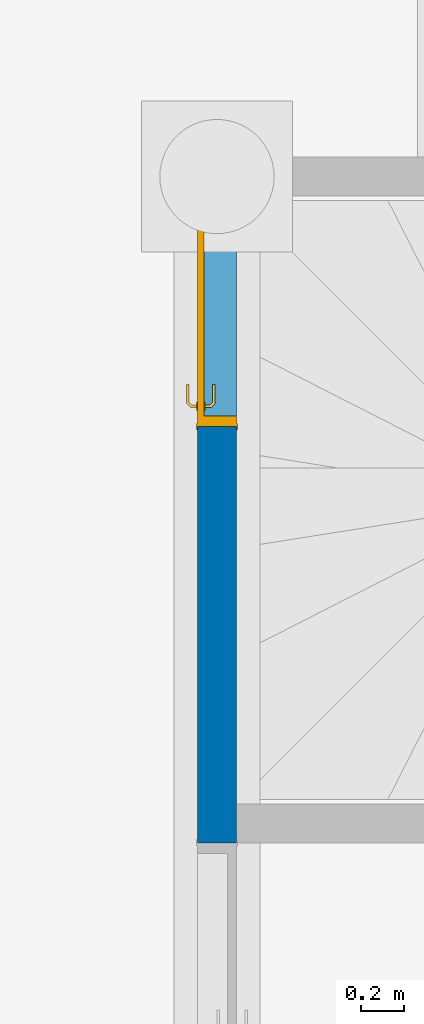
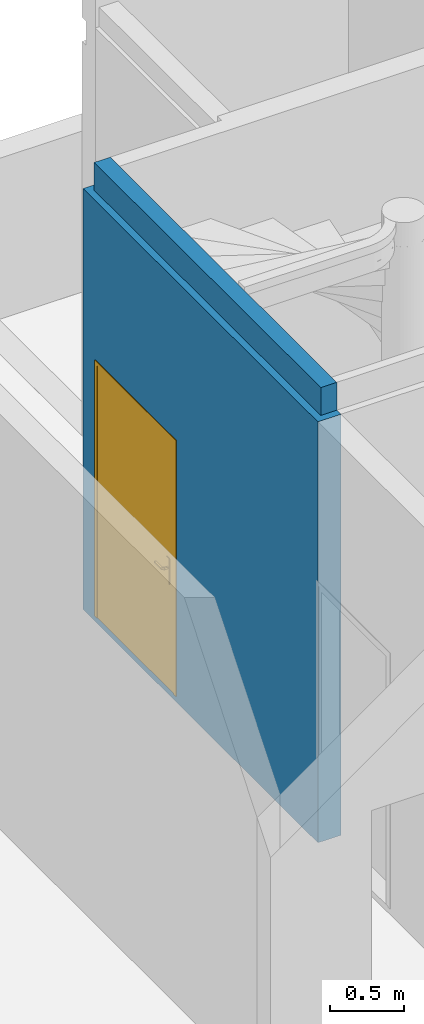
# One storey, part 22 of 29: 1 door, 1 wall, 1 opening.
"""IFC2X3 building model written with IfcOpenShell, lengths in centimetres."""

from ifc_helpers import new_model, entity, si_unit, converted_unit, derived_unit, direction, frame, frame_2d, origin, place, context, subcontext, project, spatial, rectangle, extrude, faceted_brep, source, transform, mapped, material, material_list, layer, layer_set, type_object, type_shapes, element, fill, save


model = new_model("IFC2X3")

# Units and contexts
model_context = context("Model", 3, precision=0.001, world=origin(), true_north=direction((6.12303176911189e-17, 1.0)))
body_context = subcontext(model_context, "Body", "Model", "MODEL_VIEW")
ifc_project = project(units=[si_unit("LENGTHUNIT", "METRE", prefix="CENTI"), si_unit("AREAUNIT", "SQUARE_METRE"), si_unit("VOLUMEUNIT", "CUBIC_METRE"), converted_unit("PLANEANGLEUNIT", "DEGREE", entity("IfcRatioMeasure", 0.0174532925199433), si_unit("PLANEANGLEUNIT", "RADIAN"), dimensions=[0, 0, 0, 0, 0, 0, 0]), si_unit("MASSUNIT", "GRAM", prefix="KILO"), derived_unit("MASSDENSITYUNIT", [(si_unit("MASSUNIT", "GRAM", prefix="KILO"), 1), (si_unit("LENGTHUNIT", "METRE"), -3)]), si_unit("TIMEUNIT", "SECOND"), si_unit("FREQUENCYUNIT", "HERTZ"), si_unit("THERMODYNAMICTEMPERATUREUNIT", "DEGREE_CELSIUS"), derived_unit("THERMALTRANSMITTANCEUNIT", [(si_unit("MASSUNIT", "GRAM", prefix="KILO"), 1), (si_unit("THERMODYNAMICTEMPERATUREUNIT", "KELVIN"), -1), (si_unit("TIMEUNIT", "SECOND"), -3)]), derived_unit("VOLUMETRICFLOWRATEUNIT", [(si_unit("LENGTHUNIT", "METRE"), 3), (si_unit("TIMEUNIT", "SECOND"), -1)]), si_unit("ELECTRICCURRENTUNIT", "AMPERE"), si_unit("ELECTRICVOLTAGEUNIT", "VOLT"), si_unit("POWERUNIT", "WATT"), si_unit("FORCEUNIT", "NEWTON"), si_unit("ILLUMINANCEUNIT", "LUX"), si_unit("LUMINOUSFLUXUNIT", "LUMEN"), si_unit("LUMINOUSINTENSITYUNIT", "CANDELA"), derived_unit("USERDEFINED", [(si_unit("MASSUNIT", "GRAM", prefix="KILO"), -1), (si_unit("LENGTHUNIT", "METRE"), -2), (si_unit("TIMEUNIT", "SECOND"), 3), (si_unit("LUMINOUSFLUXUNIT", "LUMEN"), 1)]), derived_unit("LINEARVELOCITYUNIT", [(si_unit("LENGTHUNIT", "METRE"), 1), (si_unit("TIMEUNIT", "SECOND"), -1)]), si_unit("PRESSUREUNIT", "PASCAL"), derived_unit("USERDEFINED", [(si_unit("LENGTHUNIT", "METRE"), -2), (si_unit("MASSUNIT", "GRAM", prefix="KILO"), 1), (si_unit("TIMEUNIT", "SECOND"), -2)])], contexts=[model_context])

# Site, building, storey
site_placement = place(None, origin())
site = spatial("IfcSite", under=ifc_project, at=site_placement, Name="Default", CompositionType="ELEMENT")
building_placement = place(site_placement, origin())
building = spatial("IfcBuilding", under=site, at=building_placement, Name="CAGE 03", CompositionType="ELEMENT")
storey_placement = place(building_placement, frame((0.0, 0.0, -26.0)))
storey = spatial("IfcBuildingStorey", under=building, at=storey_placement, Name="+3.74", CompositionType="ELEMENT", Elevation=-26.0000000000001)

# Wall, opening, door
ifc_material_1 = material(Name="Béton, C25/30")
ifc_layer = layer(ifc_material_1, 18.0)
ifc_layer_set = layer_set([ifc_layer], Name="Mur de base:Voile BA 18")
wall_type = type_object("IfcWallType", Name="Mur de base:Voile BA 18", PredefinedType="STANDARD", material=ifc_layer_set)
wall_placement = place(storey_placement, frame((7022.36582014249, 4632.6606660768, -5.0), z_axis=(0.0, 0.0, 1.0), x_axis=(0.0, 1.0, 0.0)))
wall = element("IfcWall", 1, at=wall_placement, inside=storey, type_object=wall_type, Name="Mur de base:Voile BA 18", ObjectType="Mur de base:Voile BA 18", context=body_context, shape_type="Brep", body=[
    faceted_brep([(0.0, -9.0, 0.0), (18.0, -9.0, 0.0), (300.0, -9.0, 0.0), (318.0, -9.0, 0.0), (318.0, -9.0, 348.0), (312.499999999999, -9.0, 348.0), (312.499999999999, -9.0, 371.0), (300.0, -9.0, 371.0), (12.5000000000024, -9.0, 371.0), (5.50000000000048, -9.0, 371.0), (5.49999999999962, -9.0, 348.0), (0.0, -9.0, 348.0), (0.0, -9.0, 215.0), (0.0, -9.0, 5.0), (300.0, -9.0, 215.0), (300.0, -9.0, 5.0), (193.0, -9.0, 5.0), (193.0, -9.0, 215.0), (318.0, 9.0, 0.0), (0.0, 9.0, 0.0), (0.0, 9.0, 5.0), (0.0, 9.0, 215.0), (0.0, 9.0, 348.0), (318.0, 9.0, 348.0), (300.0, 9.0, 5.0), (300.0, 9.0, 215.0), (193.0, 9.0, 215.0), (193.0, 9.0, 5.0), (312.499999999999, 3.50000000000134, 371.0), (5.50000000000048, 3.50000000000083, 371.0), (5.50000000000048, 3.50000000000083, 348.0), (312.499999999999, 3.50000000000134, 348.0)], [[[0, 1, 2, 3, 4, 5, 6, 7, 8, 9, 10, 11, 12, 13], [14, 15, 16, 17]], [[18, 19, 20, 21, 22, 23], [24, 25, 26, 27]], [[3, 2, 1, 0, 19, 18]], [[9, 8, 7, 6, 28, 29]], [[3, 18, 23, 4]], [[15, 14, 25, 24]], [[14, 17, 26, 25]], [[17, 16, 27, 26]], [[16, 15, 24, 27]], [[19, 0, 13, 12, 11, 22, 21, 20]], [[30, 31, 5, 4, 23, 22, 11, 10]], [[31, 30, 29, 28]], [[29, 30, 10, 9]], [[31, 28, 6, 5]]]),
])
opening_placement = place(wall_placement, frame((193.0, -9.0, 5.0)))
opening = element("IfcOpeningElement", 2, at=opening_placement, cuts=wall, Name="Int. Simple:HB103:1", ObjectType="Opening", context=body_context, shape_type="SweptSolid", body=[
    extrude(rectangle(XDim=210.000000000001, YDim=107.0, at=frame_2d((105.000000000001, 53.4999999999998), x_axis=(1.0, 0.0))), frame((0.0, 0.0, 0.0), z_axis=(0.0, 1.0, 0.0), x_axis=(0.0, 0.0, 1.0)), (0.0, 0.0, 1.0), 18.0),
])
ifc_material_2 = material(Name="Finition Peinture - Blanc satiné")
ifc_material_3 = material(Name="Bois - Panneau de porte")
ifc_material_4 = material(Name="Bois - Cadre de porte")
ifc_material_list_1 = material_list([ifc_material_2, ifc_material_3, ifc_material_4])
ifc_material_list_2 = material_list([ifc_material_2, ifc_material_3, ifc_material_4])
door_style = type_object("IfcDoorStyle", Name="HB103", ConstructionType="NOTDEFINED", OperationType="SINGLE_SWING_RIGHT", ParameterTakesPrecedence=False, Sizeable=False, material=ifc_material_list_2)
shared_shape = source(origin(), body_context, "Body", "Brep", [
    faceted_brep([(106.500000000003, -0.500000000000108, 87.0), (106.500000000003, -0.500000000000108, 108.0), (105.535276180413, -0.500000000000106, 108.399601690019), (104.500000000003, -0.500000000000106, 108.535898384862), (103.464723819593, -0.500000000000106, 108.399601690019), (102.500000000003, -0.500000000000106, 108.0), (102.500000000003, -0.500000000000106, 87.0), (103.464723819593, -0.500000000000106, 86.6003983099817), (104.500000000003, -0.500000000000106, 86.464101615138), (105.535276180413, -0.500000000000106, 86.6003983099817), (106.500000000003, 0.0, 108.0), (106.500000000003, 0.0, 87.0), (105.535276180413, 0.0, 86.6003983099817), (104.500000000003, 0.0, 86.464101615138), (103.464723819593, 0.0, 86.6003983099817), (102.500000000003, 0.0, 87.0), (102.500000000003, 0.0, 108.0), (103.464723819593, 0.0, 108.399601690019), (104.500000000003, 0.0, 108.535898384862), (105.535276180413, 0.0, 108.399601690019)], [[[0, 1, 2, 3, 4, 5, 6, 7, 8, 9]], [[10, 11, 12, 13, 14, 15, 16, 17, 18, 19]], [[9, 12, 11, 0]], [[8, 13, 12, 9]], [[7, 14, 13, 8]], [[7, 6, 15, 14]], [[15, 6, 5, 16]], [[4, 17, 16, 5]], [[3, 18, 17, 4]], [[2, 19, 18, 3]], [[2, 1, 10, 19]], [[11, 10, 1, 0]]]),
    faceted_brep([(106.500000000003, 3.0, 87.0), (106.500000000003, 3.0, 108.0), (105.535276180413, 3.0, 108.399601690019), (104.500000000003, 3.0, 108.535898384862), (103.464723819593, 3.0, 108.399601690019), (102.500000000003, 3.0, 108.0), (102.500000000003, 3.0, 87.0), (103.464723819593, 3.0, 86.6003983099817), (104.500000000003, 3.0, 86.464101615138), (105.535276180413, 3.0, 86.6003983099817), (104.500000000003, 3.49999999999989, 108.535898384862), (105.535276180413, 3.49999999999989, 108.399601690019), (106.500000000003, 3.49999999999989, 108.0), (106.500000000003, 3.49999999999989, 87.0), (105.535276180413, 3.49999999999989, 86.6003983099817), (104.500000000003, 3.49999999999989, 86.464101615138), (103.464723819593, 3.49999999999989, 86.6003983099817), (102.500000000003, 3.49999999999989, 87.0), (102.500000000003, 3.49999999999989, 108.0), (103.464723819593, 3.49999999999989, 108.399601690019)], [[[0, 1, 2, 3, 4, 5, 6, 7, 8, 9]], [[10, 11, 12, 13, 14, 15, 16, 17, 18, 19]], [[4, 19, 18, 5]], [[3, 10, 19, 4]], [[2, 11, 10, 3]], [[2, 1, 12, 11]], [[13, 12, 1, 0]], [[9, 14, 13, 0]], [[8, 15, 14, 9]], [[7, 16, 15, 8]], [[7, 6, 17, 16]], [[17, 6, 5, 18]]]),
    faceted_brep([(104.297470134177, -0.500000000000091, 100.778044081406), (104.702529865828, -0.500000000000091, 100.778044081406), (105.100000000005, -0.500000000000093, 100.699999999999), (105.100000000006, -0.500000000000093, 99.299999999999), (104.702529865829, -0.500000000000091, 99.2219559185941), (104.297470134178, -0.500000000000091, 99.2219559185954), (103.9, -0.500000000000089, 99.3000000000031), (103.9, -0.500000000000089, 100.7), (104.702529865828, -3.1004575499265, 100.778044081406), (105.100000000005, -3.26509507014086, 100.7), (104.297470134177, -2.93267631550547, 100.778044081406), (102.92986024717, -4.30028620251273, 100.778044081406), (103.097641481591, -4.70534593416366, 100.778044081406), (103.9, -2.76803879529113, 100.7), (103.9, -2.76803879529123, 99.3000000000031), (104.297470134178, -2.93267631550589, 99.2219559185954), (104.702529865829, -3.10045754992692, 99.2219559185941), (103.097641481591, -4.70534593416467, 99.2219559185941), (102.92986024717, -4.30028620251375, 99.2219559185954), (105.100000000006, -3.26509507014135, 99.299999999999), (103.262279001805, -5.10281606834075, 100.7), (102.765222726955, -3.90281606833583, 100.7), (102.765222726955, -3.90281606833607, 99.3000000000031), (103.262279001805, -5.10281606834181, 99.299999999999), (94.4981359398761, -5.1028160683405, 100.7), (94.4981359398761, -4.7053459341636, 100.778044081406), (94.4981359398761, -4.30028620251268, 100.778044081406), (94.4981359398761, -3.90281606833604, 100.699999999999), (94.4981359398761, -3.90281606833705, 99.3000000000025), (94.4981359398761, -4.30028620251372, 99.2219559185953), (94.4981359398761, -4.70534593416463, 99.2219559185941), (94.4981359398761, -5.10281606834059, 99.2999999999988), (98.7139980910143, -4.50281606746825, 100.78786867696), (99.2692302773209, -5.10281606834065, 100.7), (98.6316793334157, -3.90281606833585, 100.7), (98.6316793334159, -3.90281606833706, 99.3000000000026), (98.7139981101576, -4.50281607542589, 99.2121313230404), (99.2692299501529, -5.10281606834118, 99.2999999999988)], [[[0, 1, 2, 3, 4, 5, 6, 7]], [[2, 1, 8, 9]], [[1, 0, 10, 11, 12, 8]], [[0, 7, 13, 10]], [[14, 13, 7, 6]], [[5, 15, 14, 6]], [[5, 4, 16, 17, 18, 15]], [[3, 19, 16, 4]], [[9, 19, 3, 2]], [[9, 8, 12, 20]], [[10, 13, 21, 11]], [[22, 21, 13, 14]], [[14, 15, 18, 22]], [[16, 19, 23, 17]], [[20, 23, 19, 9]], [[24, 25, 26, 27, 28, 29, 30, 31]], [[32, 25, 33]], [[33, 25, 24]], [[33, 20, 12]], [[11, 34, 32]], [[34, 11, 21]], [[27, 26, 34]], [[32, 26, 25]], [[32, 34, 26]], [[32, 33, 12]], [[11, 32, 12]], [[21, 22, 35, 28, 27, 34]], [[36, 29, 35]], [[30, 36, 37]], [[18, 35, 22]], [[29, 28, 35]], [[30, 37, 31]], [[37, 17, 23]], [[36, 17, 37]], [[36, 18, 17]], [[36, 35, 18]], [[29, 36, 30]], [[23, 20, 33, 24, 31, 37]]]),
    faceted_brep([(104.297470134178, 3.49999999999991, 99.2219559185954), (104.702529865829, 3.49999999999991, 99.2219559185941), (105.100000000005, 3.4999999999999, 99.2999999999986), (105.100000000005, 3.4999999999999, 100.7), (104.702529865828, 3.49999999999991, 100.778044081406), (104.297470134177, 3.49999999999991, 100.778044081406), (103.9, 3.49999999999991, 100.7), (103.900000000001, 3.49999999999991, 99.3000000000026), (103.9, 5.74852045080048, 100.7), (103.9, 5.74852045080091, 99.3000000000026), (104.297470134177, 5.91315797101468, 100.778044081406), (104.702529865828, 6.08093920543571, 100.778044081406), (103.083890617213, 7.69957845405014, 100.778044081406), (102.916109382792, 7.29451872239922, 100.778044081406), (105.100000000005, 6.24557672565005, 100.7), (105.100000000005, 6.2455767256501, 99.2999999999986), (104.702529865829, 6.08093920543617, 99.2219559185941), (104.297470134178, 5.91315797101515, 99.2219559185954), (102.916109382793, 7.29451872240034, 99.2219559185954), (103.083890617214, 7.69957845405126, 99.2219559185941), (102.751471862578, 6.89704858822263, 100.7), (102.751471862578, 6.89704858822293, 99.3000000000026), (103.248528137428, 8.09704858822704, 100.7), (103.248528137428, 8.09704858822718, 99.2999999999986), (94.4954216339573, 7.29451872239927, 100.778044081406), (94.4954216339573, 7.6995784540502, 100.778044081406), (94.4954216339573, 8.0970485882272, 100.7), (94.4954216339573, 8.09704858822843, 99.299999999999), (94.4954216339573, 7.6995784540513, 99.2219559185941), (94.4954216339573, 7.29451872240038, 99.2219559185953), (94.4954216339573, 6.89704858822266, 99.3000000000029), (94.4954216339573, 6.89704858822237, 100.7), (98.6234467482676, 6.89704858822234, 100.7), (98.6234479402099, 6.89704858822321, 99.3000000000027), (98.7057655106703, 7.4970485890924, 100.78786867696), (99.255479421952, 8.09704858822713, 100.7), (99.2554794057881, 8.09704858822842, 99.299999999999), (98.7057654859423, 7.49704858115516, 99.2121313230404)], [[[0, 1, 2, 3, 4, 5, 6, 7]], [[8, 9, 7, 6]], [[5, 10, 8, 6]], [[5, 4, 11, 12, 13, 10]], [[3, 14, 11, 4]], [[14, 3, 2, 15]], [[2, 1, 16, 15]], [[1, 0, 17, 18, 19, 16]], [[0, 7, 9, 17]], [[20, 21, 9, 8]], [[8, 10, 13, 20]], [[14, 22, 12, 11]], [[23, 22, 14, 15]], [[15, 16, 19, 23]], [[17, 9, 21, 18]], [[24, 25, 26, 27, 28, 29, 30, 31]], [[20, 32, 31, 30, 33, 21]], [[34, 24, 32]], [[25, 34, 35]], [[13, 32, 20]], [[24, 31, 32]], [[25, 35, 26]], [[35, 12, 22]], [[34, 12, 35]], [[34, 13, 12]], [[34, 32, 13]], [[24, 34, 25]], [[22, 23, 36, 27, 26, 35]], [[37, 28, 36]], [[36, 28, 27]], [[36, 23, 19]], [[18, 33, 37]], [[33, 18, 21]], [[30, 29, 33]], [[37, 29, 28]], [[37, 33, 29]], [[37, 36, 19]], [[18, 37, 19]]]),
    faceted_brep([(110.500000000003, 3.0, 206.5), (110.500000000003, 3.0, 0.0), (10.5000000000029, 3.0, 0.0), (10.5000000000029, 3.0, 206.5), (110.500000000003, 0.0, 206.5), (10.5000000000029, 0.0, 206.5), (10.5000000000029, 0.0, 0.0), (110.500000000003, 0.0, 0.0)], [[[0, 1, 2, 3]], [[4, 5, 6, 7]], [[3, 5, 4, 0]], [[2, 6, 5, 3]], [[1, 7, 6, 2]], [[0, 4, 7, 1]]]),
    faceted_brep([(114.0, 0.0, 0.0), (110.500000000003, 0.0, 0.0), (110.500000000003, 3.0, 0.0), (109.0, 3.0, 0.0), (109.0, 18.0, 0.0), (114.0, 18.0, 0.0), (114.0, 18.0, 210.0), (114.0, 0.0, 210.0), (109.0, 18.0, 205.0), (12.0, 18.0, 205.0), (12.0, 18.0, 0.0), (7.0, 18.0, 0.0), (7.0, 18.0, 210.0), (109.0, 3.0, 205.0), (110.500000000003, 3.0, 206.5), (10.5000000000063, 3.0, 206.5), (10.5000000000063, 3.0, 0.0), (12.0, 3.0, 0.0), (12.0, 3.0, 205.0), (110.500000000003, 0.0, 206.5), (7.0, 0.0, 210.0), (7.0, 0.0, 0.0), (10.5000000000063, 0.0, 0.0), (10.5000000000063, 0.0, 206.5)], [[[0, 1, 2, 3, 4, 5]], [[5, 6, 7, 0]], [[4, 8, 9, 10, 11, 12, 6, 5]], [[3, 13, 8, 4]], [[2, 14, 15, 16, 17, 18, 13, 3]], [[1, 19, 14, 2]], [[0, 7, 20, 21, 22, 23, 19, 1]], [[12, 11, 21, 20]], [[21, 11, 10, 17, 16, 22]], [[18, 17, 10, 9]], [[23, 22, 16, 15]], [[6, 12, 20, 7]], [[13, 18, 9, 8]], [[19, 23, 15, 14]]]),
    faceted_brep([(112.500000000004, 18.0, 0.0), (112.500000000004, 18.5000000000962, 0.0), (115.500000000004, 18.5000000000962, 0.0), (115.500000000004, 18.0, 0.0), (115.500000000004, 18.0, 211.500000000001), (5.50000000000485, 18.0, 211.500000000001), (5.50000000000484, 18.0, 0.0), (8.50000000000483, 18.0, 0.0), (8.50000000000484, 18.0, 208.500000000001), (112.500000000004, 18.0, 208.500000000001), (115.500000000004, 18.5000000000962, 211.500000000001), (112.500000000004, 18.5000000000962, 208.500000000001), (8.50000000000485, 18.5000000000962, 208.500000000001), (8.50000000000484, 18.5000000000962, 0.0), (5.50000000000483, 18.5000000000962, 0.0), (5.50000000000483, 18.5000000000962, 211.500000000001)], [[[0, 1, 2, 3]], [[3, 4, 5, 6, 7, 8, 9, 0]], [[2, 10, 4, 3]], [[1, 11, 12, 13, 14, 15, 10, 2]], [[0, 9, 11, 1]], [[7, 6, 14, 13]], [[8, 7, 13, 12]], [[15, 14, 6, 5]], [[10, 15, 5, 4]], [[9, 8, 12, 11]]]),
    faceted_brep([(115.500000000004, -0.5, 0.0), (115.500000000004, -0.5, 211.500000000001), (5.50000000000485, -0.5, 211.500000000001), (5.50000000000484, -0.5, 0.0), (8.50000000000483, -0.5, 0.0), (8.50000000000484, -0.5, 208.500000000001), (112.500000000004, -0.5, 208.500000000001), (112.500000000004, -0.5, 0.0), (115.500000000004, 0.0, 0.0), (115.500000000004, 0.0, 211.500000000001), (112.500000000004, 0.0, 0.0), (112.500000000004, 0.0, 208.500000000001), (8.50000000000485, 0.0, 208.500000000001), (8.50000000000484, 0.0, 0.0), (5.50000000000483, 0.0, 0.0), (5.50000000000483, 0.0, 211.500000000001)], [[[0, 1, 2, 3, 4, 5, 6, 7]], [[8, 9, 1, 0]], [[10, 11, 12, 13, 14, 15, 9, 8]], [[7, 6, 11, 10]], [[5, 4, 13, 12]], [[15, 14, 3, 2]], [[9, 15, 2, 1]], [[6, 5, 12, 11]], [[4, 3, 14, 13]], [[7, 10, 8, 0]]]),
])
type_shapes(door_style, [shared_shape])
door_placement = place(opening_placement, frame((114.0, 18.0, 0.0), z_axis=(0.0, 0.0, 1.0), x_axis=(-1.0, 0.0, 0.0)))
door = element("IfcDoor", 3, at=door_placement, inside=storey, type_object=door_style, material=ifc_material_list_1, Name="Int. Simple:HB103", ObjectType="HB103", OverallHeight=210.000000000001, OverallWidth=107.0, context=body_context, shape_type="MappedRepresentation", body=[
    mapped(shared_shape, transform((0.0, 0.0, 0.0), scale=1.0)),
])
fill(opening, door)

save(model, "model.ifc")
